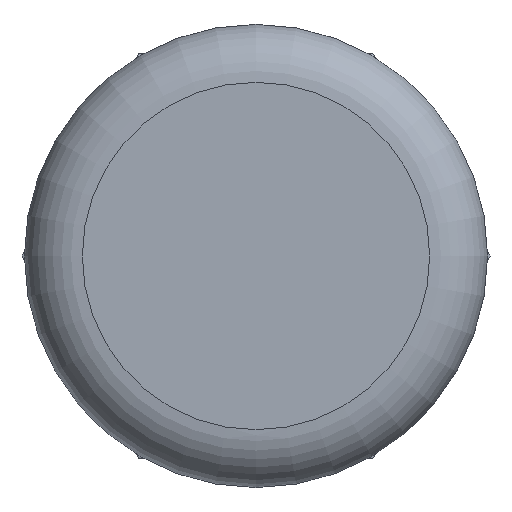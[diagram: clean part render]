
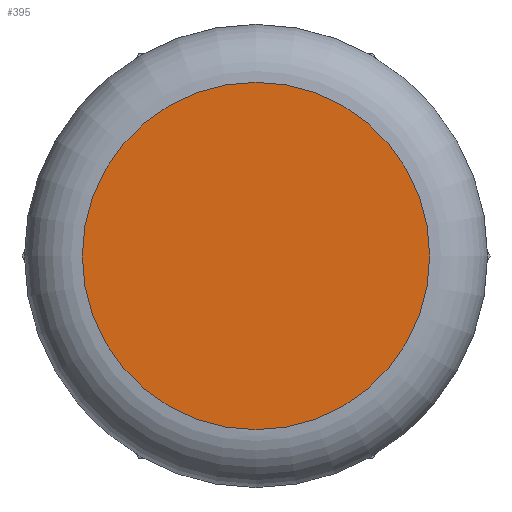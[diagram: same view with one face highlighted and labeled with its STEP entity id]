
A CAD part, left-side view. The second image highlights one B-rep face of the part: STEP entity #395.
In plain terms, the highlighted planar face has unit normal (-1, 0, 0).
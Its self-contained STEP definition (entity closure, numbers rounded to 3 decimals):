
#103=FACE_OUTER_BOUND('',#138,.T.);
#138=EDGE_LOOP('',(#286));
#170=CIRCLE('',#437,3.);
#192=VERTEX_POINT('',#624);
#226=EDGE_CURVE('',#192,#192,#170,.T.);
#286=ORIENTED_EDGE('',*,*,#226,.T.);
#378=PLANE('',#438);
#395=ADVANCED_FACE('',(#103),#378,.T.);
#437=AXIS2_PLACEMENT_3D('',#625,#511,#512);
#438=AXIS2_PLACEMENT_3D('',#626,#513,#514);
#511=DIRECTION('center_axis',(-1.,0.,0.));
#512=DIRECTION('ref_axis',(0.,0.,-1.));
#513=DIRECTION('center_axis',(-1.,0.,0.));
#514=DIRECTION('ref_axis',(0.,0.,1.));
#624=CARTESIAN_POINT('',(0.,0.,-3.));
#625=CARTESIAN_POINT('Origin',(0.,0.,0.));
#626=CARTESIAN_POINT('Origin',(0.,0.,-1.5));
